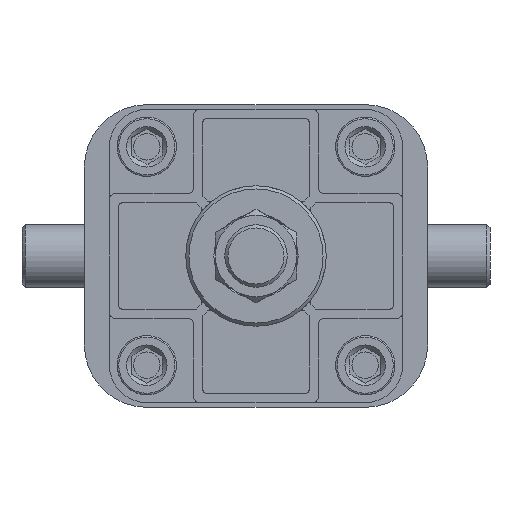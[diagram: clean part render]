
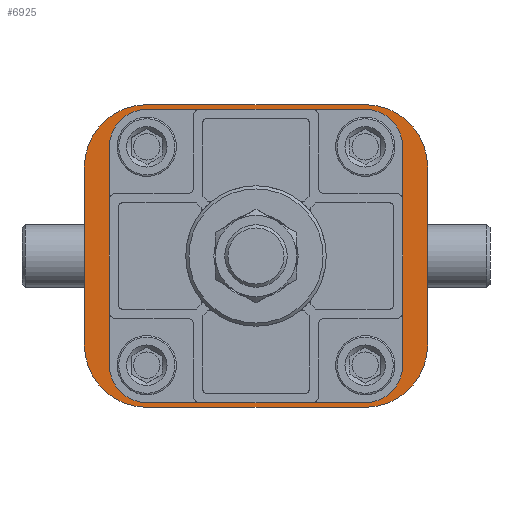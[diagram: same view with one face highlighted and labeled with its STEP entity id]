
A CAD part, front view. The second image highlights one B-rep face of the part: STEP entity #6925.
In plain terms, the highlighted planar face has unit normal (0, -1, 0).
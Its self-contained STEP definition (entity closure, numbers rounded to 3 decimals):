
#606=LINE('',#10512,#996);
#610=LINE('',#10523,#1000);
#616=LINE('',#10537,#1006);
#618=LINE('',#10543,#1008);
#996=VECTOR('',#8929,1000.);
#1000=VECTOR('',#8937,1000.);
#1006=VECTOR('',#8945,1000.);
#1008=VECTOR('',#8951,1000.);
#2311=ORIENTED_EDGE('',*,*,#3021,.F.);
#2312=ORIENTED_EDGE('',*,*,#3022,.F.);
#2313=ORIENTED_EDGE('',*,*,#3023,.F.);
#2314=ORIENTED_EDGE('',*,*,#3024,.F.);
#2315=ORIENTED_EDGE('',*,*,#3025,.T.);
#2316=ORIENTED_EDGE('',*,*,#3005,.F.);
#2317=ORIENTED_EDGE('',*,*,#3026,.T.);
#2318=ORIENTED_EDGE('',*,*,#2999,.F.);
#2319=ORIENTED_EDGE('',*,*,#3027,.T.);
#2320=ORIENTED_EDGE('',*,*,#2994,.F.);
#2321=ORIENTED_EDGE('',*,*,#3028,.T.);
#2322=ORIENTED_EDGE('',*,*,#3008,.F.);
#2323=ORIENTED_EDGE('',*,*,#3029,.T.);
#2994=EDGE_CURVE('',#3476,#3477,#606,.T.);
#2999=EDGE_CURVE('',#3481,#3482,#610,.T.);
#3005=EDGE_CURVE('',#3487,#3488,#616,.T.);
#3008=EDGE_CURVE('',#3490,#3491,#618,.T.);
#3021=EDGE_CURVE('',#3499,#3499,#3749,.F.);
#3022=EDGE_CURVE('',#3500,#3500,#3750,.F.);
#3023=EDGE_CURVE('',#3501,#3501,#3751,.F.);
#3024=EDGE_CURVE('',#3502,#3502,#3752,.F.);
#3025=EDGE_CURVE('',#3503,#3503,#3753,.T.);
#3026=EDGE_CURVE('',#3487,#3482,#3754,.F.);
#3027=EDGE_CURVE('',#3481,#3477,#3755,.F.);
#3028=EDGE_CURVE('',#3476,#3491,#3756,.F.);
#3029=EDGE_CURVE('',#3490,#3488,#3757,.F.);
#3476=VERTEX_POINT('',#10513);
#3477=VERTEX_POINT('',#10514);
#3481=VERTEX_POINT('',#10524);
#3482=VERTEX_POINT('',#10525);
#3487=VERTEX_POINT('',#10536);
#3488=VERTEX_POINT('',#10538);
#3490=VERTEX_POINT('',#10544);
#3491=VERTEX_POINT('',#10545);
#3499=VERTEX_POINT('',#10568);
#3500=VERTEX_POINT('',#10570);
#3501=VERTEX_POINT('',#10572);
#3502=VERTEX_POINT('',#10574);
#3503=VERTEX_POINT('',#10576);
#3749=CIRCLE('',#7500,4.25);
#3750=CIRCLE('',#7501,4.25);
#3751=CIRCLE('',#7502,4.25);
#3752=CIRCLE('',#7503,4.25);
#3753=CIRCLE('',#7504,43.5);
#3754=CIRCLE('',#7505,20.);
#3755=CIRCLE('',#7506,20.);
#3756=CIRCLE('',#7507,20.);
#3757=CIRCLE('',#7508,20.);
#4132=EDGE_LOOP('',(#2311));
#4133=EDGE_LOOP('',(#2312));
#4134=EDGE_LOOP('',(#2313));
#4135=EDGE_LOOP('',(#2314));
#4136=EDGE_LOOP('',(#2315));
#4137=EDGE_LOOP('',(#2316,#2317,#2318,#2319,#2320,#2321,#2322,#2323));
#4532=FACE_BOUND('',#4132,.T.);
#4533=FACE_BOUND('',#4133,.T.);
#4534=FACE_BOUND('',#4134,.T.);
#4535=FACE_BOUND('',#4135,.T.);
#4536=FACE_BOUND('',#4136,.T.);
#4537=FACE_BOUND('',#4137,.T.);
#4720=PLANE('',#7499);
#6925=ADVANCED_FACE('',(#4532,#4533,#4534,#4535,#4536,#4537),#4720,.F.);
#7499=AXIS2_PLACEMENT_3D('',#10566,#8975,#8976);
#7500=AXIS2_PLACEMENT_3D('',#10567,#8977,#8978);
#7501=AXIS2_PLACEMENT_3D('',#10569,#8979,#8980);
#7502=AXIS2_PLACEMENT_3D('',#10571,#8981,#8982);
#7503=AXIS2_PLACEMENT_3D('',#10573,#8983,#8984);
#7504=AXIS2_PLACEMENT_3D('',#10575,#8985,#8986);
#7505=AXIS2_PLACEMENT_3D('',#10577,#8987,#8988);
#7506=AXIS2_PLACEMENT_3D('',#10578,#8989,#8990);
#7507=AXIS2_PLACEMENT_3D('',#10579,#8991,#8992);
#7508=AXIS2_PLACEMENT_3D('',#10580,#8993,#8994);
#8929=DIRECTION('',(-1.,0.,0.));
#8937=DIRECTION('',(0.,0.,1.));
#8945=DIRECTION('',(1.,0.,0.));
#8951=DIRECTION('',(0.,0.,-1.));
#8975=DIRECTION('',(0.,1.,0.));
#8976=DIRECTION('',(0.,0.,1.));
#8977=DIRECTION('',(0.,1.,0.));
#8978=DIRECTION('',(0.,0.,1.));
#8979=DIRECTION('',(0.,1.,0.));
#8980=DIRECTION('',(0.,0.,1.));
#8981=DIRECTION('',(0.,1.,0.));
#8982=DIRECTION('',(0.,0.,1.));
#8983=DIRECTION('',(0.,1.,0.));
#8984=DIRECTION('',(0.,0.,1.));
#8985=DIRECTION('',(0.,1.,0.));
#8986=DIRECTION('',(0.,0.,1.));
#8987=DIRECTION('',(0.,1.,0.));
#8988=DIRECTION('',(0.,0.,1.));
#8989=DIRECTION('',(0.,1.,0.));
#8990=DIRECTION('',(0.,0.,1.));
#8991=DIRECTION('',(0.,1.,0.));
#8992=DIRECTION('',(0.,0.,1.));
#8993=DIRECTION('',(0.,1.,0.));
#8994=DIRECTION('',(0.,0.,1.));
#10512=CARTESIAN_POINT('',(45.,-17.5,-48.5));
#10513=CARTESIAN_POINT('',(35.,-17.5,-48.5));
#10514=CARTESIAN_POINT('',(-35.,-17.5,-48.5));
#10523=CARTESIAN_POINT('',(-55.,-17.5,-40.5));
#10524=CARTESIAN_POINT('',(-55.,-17.5,-28.5));
#10525=CARTESIAN_POINT('',(-55.,-17.5,28.5));
#10536=CARTESIAN_POINT('',(-35.,-17.5,48.5));
#10537=CARTESIAN_POINT('',(-45.,-17.5,48.5));
#10538=CARTESIAN_POINT('',(35.,-17.5,48.5));
#10543=CARTESIAN_POINT('',(55.,-17.5,40.5));
#10544=CARTESIAN_POINT('',(55.,-17.5,28.5));
#10545=CARTESIAN_POINT('',(55.,-17.5,-28.5));
#10566=CARTESIAN_POINT('',(0.,-17.5,0.));
#10567=CARTESIAN_POINT('',(35.,-17.5,-35.));
#10568=CARTESIAN_POINT('',(35.,-17.5,-30.75));
#10569=CARTESIAN_POINT('',(-35.,-17.5,-35.));
#10570=CARTESIAN_POINT('',(-35.,-17.5,-30.75));
#10571=CARTESIAN_POINT('',(-35.,-17.5,35.));
#10572=CARTESIAN_POINT('',(-35.,-17.5,39.25));
#10573=CARTESIAN_POINT('',(35.,-17.5,35.));
#10574=CARTESIAN_POINT('',(35.,-17.5,39.25));
#10575=CARTESIAN_POINT('',(0.,-17.5,0.));
#10576=CARTESIAN_POINT('',(0.,-17.5,43.5));
#10577=CARTESIAN_POINT('',(-35.,-17.5,28.5));
#10578=CARTESIAN_POINT('',(-35.,-17.5,-28.5));
#10579=CARTESIAN_POINT('',(35.,-17.5,-28.5));
#10580=CARTESIAN_POINT('',(35.,-17.5,28.5));
